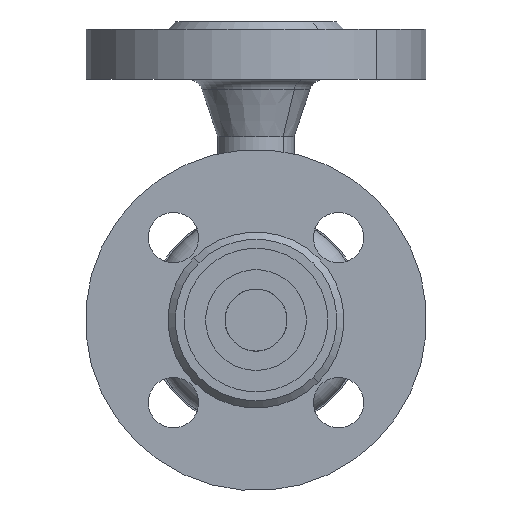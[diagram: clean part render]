
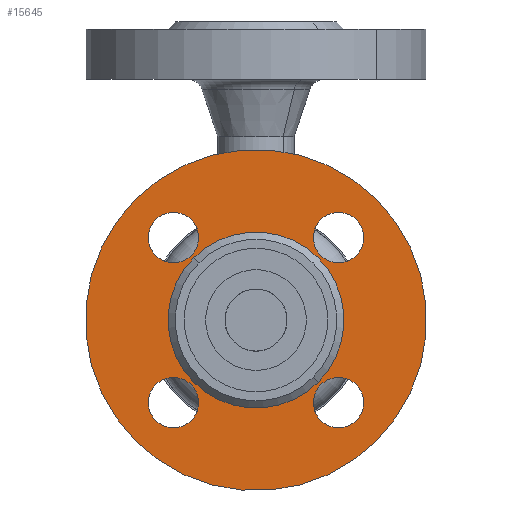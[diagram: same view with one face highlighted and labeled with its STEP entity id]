
A CAD part, front view. The second image highlights one B-rep face of the part: STEP entity #15645.
In plain terms, the highlighted planar face has unit normal (0, -1, 0).
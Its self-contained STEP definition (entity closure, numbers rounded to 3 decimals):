
#207 = CIRCLE ( 'NONE', #208, 7. ) ;
#208 = AXIS2_PLACEMENT_3D ( 'NONE', #209, #210, #211 ) ;
#209 = CARTESIAN_POINT ( 'NONE',  ( 0., 2., 32.5 ) ) ;
#210 = DIRECTION ( 'NONE',  ( 0., 1., 0. ) ) ;
#211 = DIRECTION ( 'NONE',  ( -1., 0., 0. ) ) ;
#229 = EDGE_LOOP ( 'NONE', ( #12486, #3447 ) ) ;
#351 = ORIENTED_EDGE ( 'NONE', *, *, #8924, .F. ) ;
#472 = VERTEX_POINT ( 'NONE', #13079 ) ;
#683 = VERTEX_POINT ( 'NONE', #13355 ) ;
#803 = ORIENTED_EDGE ( 'NONE', *, *, #3655, .F. ) ;
#893 = EDGE_CURVE ( 'NONE', #683, #472, #13570, .T. ) ;
#1254 = ORIENTED_EDGE ( 'NONE', *, *, #893, .T. ) ;
#1683 = EDGE_LOOP ( 'NONE', ( #12170, #1254 ) ) ;
#2062 = ORIENTED_EDGE ( 'NONE', *, *, #7226, .T. ) ;
#2645 = CARTESIAN_POINT ( 'NONE',  ( 25.5, 2., 0. ) ) ;
#2956 = CARTESIAN_POINT ( 'NONE',  ( 39.5, 2., 0. ) ) ;
#3232 = CARTESIAN_POINT ( 'NONE',  ( -7., 2., 32.5 ) ) ;
#3239 = VERTEX_POINT ( 'NONE', #5411 ) ;
#3261 = CIRCLE ( 'NONE', #3262, 7. ) ;
#3262 = AXIS2_PLACEMENT_3D ( 'NONE', #3263, #3264, #3265 ) ;
#3263 = CARTESIAN_POINT ( 'NONE',  ( 32.5, 2., 0. ) ) ;
#3264 = DIRECTION ( 'NONE',  ( 0., 1., 0. ) ) ;
#3265 = DIRECTION ( 'NONE',  ( -1., 0., 0. ) ) ;
#3413 = CARTESIAN_POINT ( 'NONE',  ( 7., 2., 32.5 ) ) ;
#3446 = VERTEX_POINT ( 'NONE', #6017 ) ;
#3447 = ORIENTED_EDGE ( 'NONE', *, *, #3638, .T. ) ;
#3462 = CIRCLE ( 'NONE', #3463, 7. ) ;
#3463 = AXIS2_PLACEMENT_3D ( 'NONE', #3465, #3466, #3467 ) ;
#3465 = CARTESIAN_POINT ( 'NONE',  ( -32.5, 2., 0. ) ) ;
#3466 = DIRECTION ( 'NONE',  ( 0., 1., 0. ) ) ;
#3467 = DIRECTION ( 'NONE',  ( -1., 0., 0. ) ) ;
#3638 = EDGE_CURVE ( 'NONE', #12537, #12258, #6498, .T. ) ;
#3655 = EDGE_CURVE ( 'NONE', #3446, #3239, #6503, .T. ) ;
#3680 = CIRCLE ( 'NONE', #3681, 7. ) ;
#3681 = AXIS2_PLACEMENT_3D ( 'NONE', #3682, #3683, #3684 ) ;
#3682 = CARTESIAN_POINT ( 'NONE',  ( 0., 2., 32.5 ) ) ;
#3683 = DIRECTION ( 'NONE',  ( 0., 1., 0. ) ) ;
#3684 = DIRECTION ( 'NONE',  ( -1., 0., 0. ) ) ;
#3730 = CARTESIAN_POINT ( 'NONE',  ( -39.5, 2., 0. ) ) ;
#3910 = EDGE_LOOP ( 'NONE', ( #2062, #8053 ) ) ;
#5382 = CARTESIAN_POINT ( 'NONE',  ( -25.5, 2., 0. ) ) ;
#5411 = CARTESIAN_POINT ( 'NONE',  ( 47.5, 2., 0. ) ) ;
#5445 = EDGE_LOOP ( 'NONE', ( #9475, #9422 ) ) ;
#5464 = CIRCLE ( 'NONE', #5465, 7. ) ;
#5465 = AXIS2_PLACEMENT_3D ( 'NONE', #5466, #5467, #5468 ) ;
#5466 = CARTESIAN_POINT ( 'NONE',  ( -32.5, 2., 0. ) ) ;
#5467 = DIRECTION ( 'NONE',  ( 0., 1., 0. ) ) ;
#5468 = DIRECTION ( 'NONE',  ( -1., 0., 0. ) ) ;
#5469 = CARTESIAN_POINT ( 'NONE',  ( -24.5, 2., 0. ) ) ;
#6017 = CARTESIAN_POINT ( 'NONE',  ( -47.5, 2., 0. ) ) ;
#6263 = EDGE_CURVE ( 'NONE', #6926, #7135, #207, .T. ) ;
#6431 = CIRCLE ( 'NONE', #6432, 24.5 ) ;
#6432 = AXIS2_PLACEMENT_3D ( 'NONE', #6433, #6434, #6435 ) ;
#6433 = CARTESIAN_POINT ( 'NONE',  ( 0., 2., 0. ) ) ;
#6434 = DIRECTION ( 'NONE',  ( 0., 1., 0. ) ) ;
#6435 = DIRECTION ( 'NONE',  ( -1., 0., 0. ) ) ;
#6498 = CIRCLE ( 'NONE', #6499, 24.5 ) ;
#6499 = AXIS2_PLACEMENT_3D ( 'NONE', #6500, #6501, #6502 ) ;
#6500 = CARTESIAN_POINT ( 'NONE',  ( 0., 2., 0. ) ) ;
#6501 = DIRECTION ( 'NONE',  ( 0., 1., 0. ) ) ;
#6502 = DIRECTION ( 'NONE',  ( -1., 0., 0. ) ) ;
#6503 = CIRCLE ( 'NONE', #6504, 47.5 ) ;
#6504 = AXIS2_PLACEMENT_3D ( 'NONE', #6505, #6506, #6507 ) ;
#6505 = CARTESIAN_POINT ( 'NONE',  ( 0., 2., 0. ) ) ;
#6506 = DIRECTION ( 'NONE',  ( 0., 1., 0. ) ) ;
#6507 = DIRECTION ( 'NONE',  ( -1., 0., 0. ) ) ;
#6583 = ORIENTED_EDGE ( 'NONE', *, *, #6263, .T. ) ;
#6739 = FACE_BOUND ( 'NONE', #1683, .T. ) ;
#6740 = FACE_BOUND ( 'NONE', #3910, .T. ) ;
#6741 = FACE_BOUND ( 'NONE', #8140, .T. ) ;
#6742 = FACE_BOUND ( 'NONE', #5445, .T. ) ;
#6743 = FACE_OUTER_BOUND ( 'NONE', #9183, .T. ) ;
#6744 = FACE_BOUND ( 'NONE', #229, .T. ) ;
#6745 = PLANE ( 'NONE',  #6746 ) ;
#6746 = AXIS2_PLACEMENT_3D ( 'NONE', #6747, #6748, #6749 ) ;
#6747 = CARTESIAN_POINT ( 'NONE',  ( 24.5, 2., 0. ) ) ;
#6748 = DIRECTION ( 'NONE',  ( 0., 1., 0. ) ) ;
#6749 = DIRECTION ( 'NONE',  ( -1., 0., 0. ) ) ;
#6926 = VERTEX_POINT ( 'NONE', #3232 ) ;
#7135 = VERTEX_POINT ( 'NONE', #3413 ) ;
#7226 = EDGE_CURVE ( 'NONE', #7420, #7631, #3462, .T. ) ;
#7272 = CIRCLE ( 'NONE', #7273, 7. ) ;
#7273 = AXIS2_PLACEMENT_3D ( 'NONE', #7274, #7275, #7276 ) ;
#7274 = CARTESIAN_POINT ( 'NONE',  ( 0., 2., -32.5 ) ) ;
#7275 = DIRECTION ( 'NONE',  ( 0., 1., 0. ) ) ;
#7276 = DIRECTION ( 'NONE',  ( -1., 0., 0. ) ) ;
#7347 = EDGE_CURVE ( 'NONE', #7135, #6926, #3680, .T. ) ;
#7420 = VERTEX_POINT ( 'NONE', #3730 ) ;
#7543 = ORIENTED_EDGE ( 'NONE', *, *, #7347, .T. ) ;
#7631 = VERTEX_POINT ( 'NONE', #5382 ) ;
#7831 = EDGE_CURVE ( 'NONE', #7631, #7420, #5464, .T. ) ;
#8053 = ORIENTED_EDGE ( 'NONE', *, *, #7831, .T. ) ;
#8140 = EDGE_LOOP ( 'NONE', ( #6583, #7543 ) ) ;
#8589 = EDGE_CURVE ( 'NONE', #472, #683, #7272, .T. ) ;
#8924 = EDGE_CURVE ( 'NONE', #3239, #3446, #12632, .T. ) ;
#9148 = EDGE_CURVE ( 'NONE', #13799, #14010, #12850, .T. ) ;
#9183 = EDGE_LOOP ( 'NONE', ( #803, #351 ) ) ;
#9422 = ORIENTED_EDGE ( 'NONE', *, *, #14218, .T. ) ;
#9475 = ORIENTED_EDGE ( 'NONE', *, *, #9148, .T. ) ;
#11571 = CARTESIAN_POINT ( 'NONE',  ( 24.5, 2., 0. ) ) ;
#12170 = ORIENTED_EDGE ( 'NONE', *, *, #8589, .T. ) ;
#12258 = VERTEX_POINT ( 'NONE', #5469 ) ;
#12463 = EDGE_CURVE ( 'NONE', #12258, #12537, #6431, .T. ) ;
#12486 = ORIENTED_EDGE ( 'NONE', *, *, #12463, .T. ) ;
#12537 = VERTEX_POINT ( 'NONE', #11571 ) ;
#12632 = CIRCLE ( 'NONE', #12633, 47.5 ) ;
#12633 = AXIS2_PLACEMENT_3D ( 'NONE', #12634, #12635, #12636 ) ;
#12634 = CARTESIAN_POINT ( 'NONE',  ( 0., 2., 0. ) ) ;
#12635 = DIRECTION ( 'NONE',  ( 0., 1., 0. ) ) ;
#12636 = DIRECTION ( 'NONE',  ( -1., 0., 0. ) ) ;
#12850 = CIRCLE ( 'NONE', #12851, 7. ) ;
#12851 = AXIS2_PLACEMENT_3D ( 'NONE', #12852, #12853, #12854 ) ;
#12852 = CARTESIAN_POINT ( 'NONE',  ( 32.5, 2., 0. ) ) ;
#12853 = DIRECTION ( 'NONE',  ( 0., 1., 0. ) ) ;
#12854 = DIRECTION ( 'NONE',  ( -1., 0., 0. ) ) ;
#13079 = CARTESIAN_POINT ( 'NONE',  ( -7., 2., -32.5 ) ) ;
#13355 = CARTESIAN_POINT ( 'NONE',  ( 7., 2., -32.5 ) ) ;
#13570 = CIRCLE ( 'NONE', #13571, 7. ) ;
#13571 = AXIS2_PLACEMENT_3D ( 'NONE', #13572, #13573, #13574 ) ;
#13572 = CARTESIAN_POINT ( 'NONE',  ( 0., 2., -32.5 ) ) ;
#13573 = DIRECTION ( 'NONE',  ( 0., 1., 0. ) ) ;
#13574 = DIRECTION ( 'NONE',  ( -1., 0., 0. ) ) ;
#13799 = VERTEX_POINT ( 'NONE', #2645 ) ;
#14010 = VERTEX_POINT ( 'NONE', #2956 ) ;
#14218 = EDGE_CURVE ( 'NONE', #14010, #13799, #3261, .T. ) ;
#15645 = ADVANCED_FACE ( 'NONE', ( #6739, #6740, #6741, #6742, #6743, #6744 ), #6745, .F. ) ;
